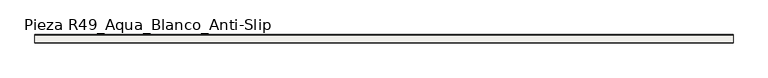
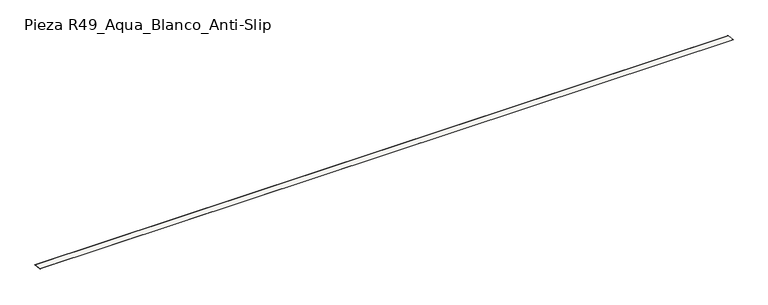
"""IFC4 building model written with IfcOpenShell, lengths in millimetres: slab geometry, ROSA GRES_R49 : Pieza R49_Aqua_Blanco_Anti-Slip."""

from ifc_helpers import new_model, si_unit, point, frame, frame_2d, origin, place, context, project, spatial, polyline, circle_curve, trimmed, segment, composite_curve, outline, extrude, source, transform, mapped, element, save


def pieza_r49_aqua_blanco_anti_slip_135d777d(model_context):
    return source(origin(), model_context, "Body", "SweptSolid", [
        extrude(outline(composite_curve([segment(polyline([(-70.1539646, 196.3880826), (-366.1749837, 220.4828167), (-365.5494776, 228.1676059)]), True, "CONTINUOUS"), segment(trimmed(circle_curve(frame_2d((-364.7862135, 226.9789488)), 1.4126139), [point((-365.5494776, 228.1676059))], [point((-364.6716123, 228.3869063))], False, "CARTESIAN"), True, "CONTINUOUS"), segment(polyline([(-364.6716123, 228.3869063), (-76.6234074, 204.9411222)]), True, "CONTINUOUS"), segment(trimmed(circle_curve(frame_2d((-77.8482549, 197.189121)), 7.8481701), [point((-76.6234074, 204.9411222))], [point((-70.0315861, 197.89159))], False, "CARTESIAN"), True, "CONTINUOUS"), segment(polyline([(-70.0315861, 197.89159), (-70.1539646, 196.3880826)]), True, "CONTINUOUS")], self_intersect=False)), frame((0.0, 0.0, 0.0), z_axis=(1.0, 0.0, 0.0), x_axis=(0.0, 1.0, 0.0)), (0.0, 0.0, 1.0), 24991.25),
    ])


if __name__ == "__main__":
    model = new_model("IFC4")
    model_context = context("Model", 3, world=origin())
    ifc_project = project(units=[si_unit("LENGTHUNIT", "METRE", prefix="MILLI")], contexts=[model_context])
    site = spatial("IfcSite", under=ifc_project)
    building = spatial("IfcBuilding", under=site)
    placement = place(None, origin())
    pieza_r49_aqua_blanco_anti_slip_shape = pieza_r49_aqua_blanco_anti_slip_135d777d(model_context)
    element("IfcSlab", 1, ObjectType="ROSA GRES_R49 : Pieza R49_Aqua_Blanco_Anti-Slip", at=placement, inside=building, context=model_context, shape_type="MappedRepresentation", body=[
        mapped(pieza_r49_aqua_blanco_anti_slip_shape, transform((0.0, 0.0, 0.0), x_axis=(1.0, 0.0, 0.0), y_axis=(0.0, 1.0, 0.0), z_axis=(0.0, 0.0, 1.0))),
    ])
    save(model, "model.ifc")
